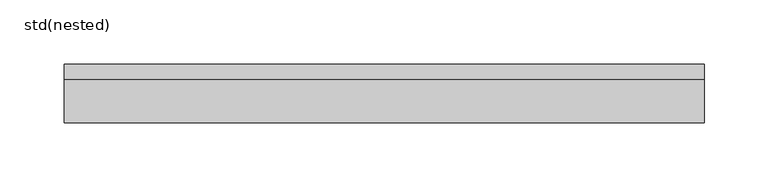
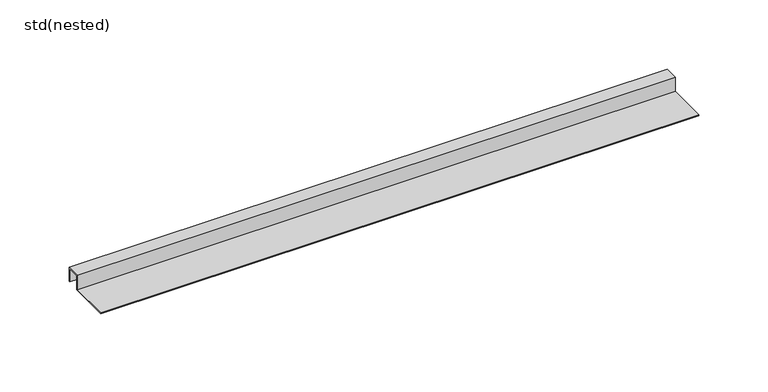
"""IFC4 building model written with IfcOpenShell, lengths in millimetres: sanitary terminal geometry, ZZZ_do not use_PF_UN_ShowerStep Black_ACO : std(nested)."""

from ifc_helpers import new_model, si_unit, origin, place, context, project, spatial, faceted_brep, source, transform, mapped, element, save


def std_nested_3a278fe4(model_context):
    return source(origin(), model_context, "Body", "Brep", [
        faceted_brep([(0.0, -1.0, -12.5), (0.0, -1.0, -1.0), (0.0, -11.0004219, -1.0), (0.0, -11.0004219, -13.5), (0.0, -46.0004219, -13.5), (0.0, -46.0004219, -12.5), (0.0, -12.0076915, -12.5), (0.0, -12.0076915, 0.0), (0.0, 0.0, 0.0), (0.0, 0.0, -12.5), (500.0, 0.0, -21.3383838), (500.0, -1.0, -21.3383838), (500.0, 0.0, 0.0), (500.0, -12.0076915, 0.0), (500.0, -12.0076915, -12.5), (500.0, -46.0004219, -12.5), (500.0, -46.0004219, -13.5), (500.0, -11.0004219, -13.5), (500.0, -11.0004219, -1.0), (500.0, -1.0, -1.0)], [[[0, 1, 2, 3, 4, 5, 6, 7, 8, 9]], [[0, 9, 10, 11]], [[9, 8, 12, 10]], [[8, 7, 13, 12]], [[7, 6, 14, 13]], [[6, 5, 15, 14]], [[5, 4, 16, 15]], [[4, 3, 17, 16]], [[3, 2, 18, 17]], [[2, 1, 19, 18]], [[1, 0, 11, 19]], [[11, 10, 12, 13, 14, 15, 16, 17, 18, 19]]]),
    ])


if __name__ == "__main__":
    model = new_model("IFC4")
    model_context = context("Model", 3, world=origin())
    ifc_project = project(units=[si_unit("LENGTHUNIT", "METRE", prefix="MILLI")], contexts=[model_context])
    site = spatial("IfcSite", under=ifc_project)
    building = spatial("IfcBuilding", under=site)
    placement = place(None, origin())
    std_nested_shape = std_nested_3a278fe4(model_context)
    element("IfcSanitaryTerminal", 1, ObjectType="ZZZ_do not use_PF_UN_ShowerStep Black_ACO : std(nested)", at=placement, inside=building, context=model_context, shape_type="MappedRepresentation", body=[
        mapped(std_nested_shape, transform((0.0, 0.0, 0.0), x_axis=(1.0, 0.0, 0.0), y_axis=(0.0, 1.0, 0.0), z_axis=(0.0, 0.0, 1.0))),
    ])
    save(model, "model.ifc")
